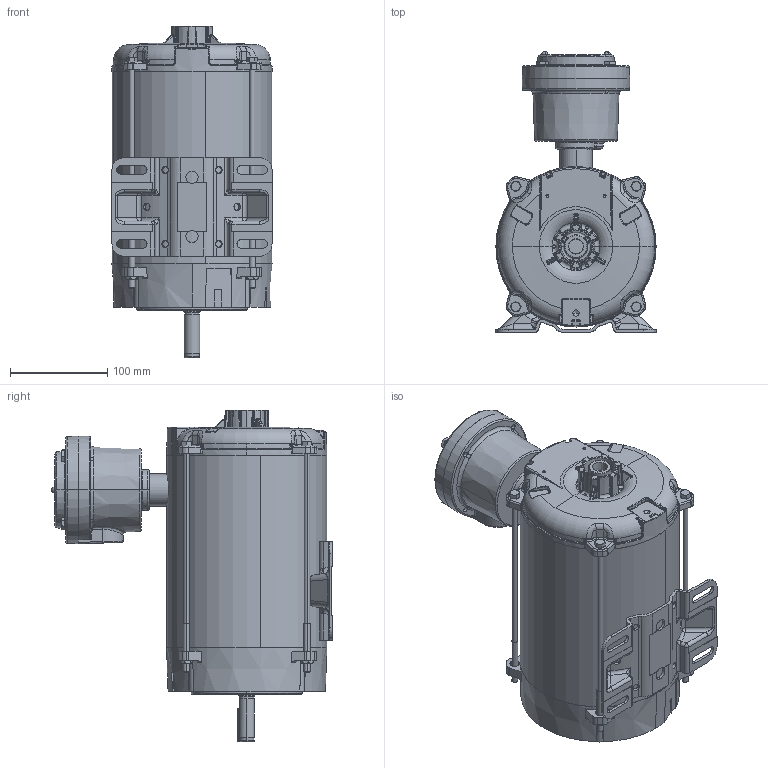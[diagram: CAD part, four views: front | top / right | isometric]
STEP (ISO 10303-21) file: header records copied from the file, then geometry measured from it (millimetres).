
FILE_DESCRIPTION (( 'STEP AP203' ), '1' );
FILE_NAME ('105279-781_Rev05.STEP', '2019-05-14T15:21:09', ( '' ), ( '' ), 'SwSTEP 2.0', 'SolidWorks 2015', '' );
FILE_SCHEMA (( 'CONFIG_CONTROL_DESIGN' ));
Length unit declared in the file: inch
Products named in the file (1): 105279-781_Rev05
Bounding box: 165.3 x 289.26 x 342.14 mm (x, y, z)
Volume: 1267069.7 mm3; surface area: 612773.8 mm2
Topology: 29 solids, 29 shells, 3616 faces, 8727 edges, 5126 vertices
Faces by surface type: bspline 1252, plane 849, cylinder 701, cone 355, torus 350, sphere 109
Entity records: 144493 total; most frequent: CARTESIAN_POINT 69282, ORIENTED_EDGE 17270, DIRECTION 13865, EDGE_CURVE 8635, AXIS2_PLACEMENT_3D 5662, VERTEX_POINT 5122, EDGE_LOOP 3749, FACE_OUTER_BOUND 3616
